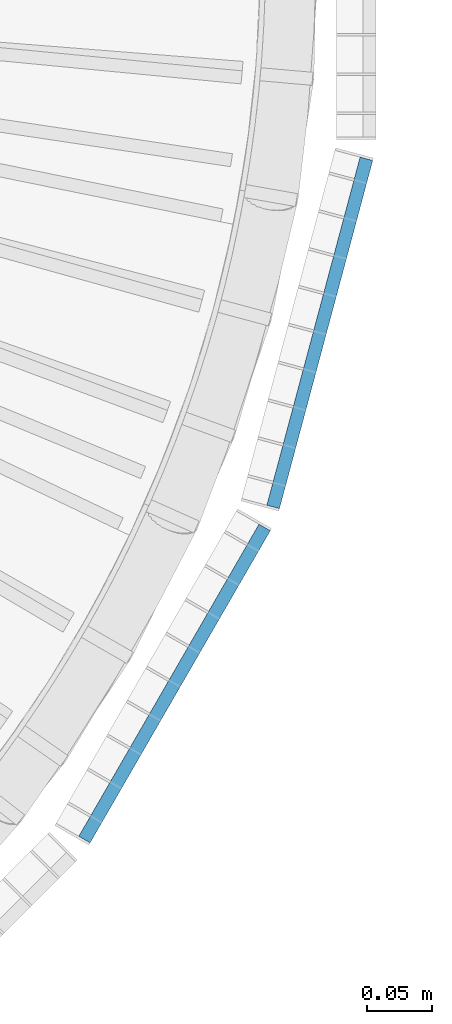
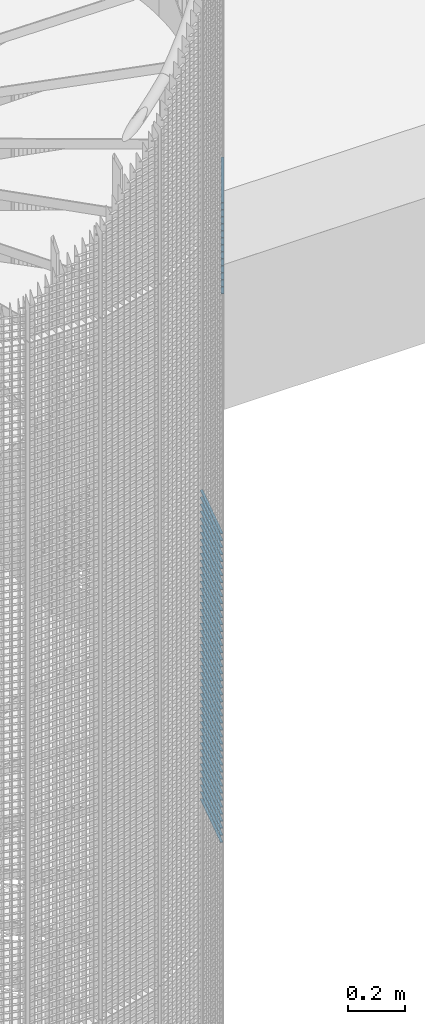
# One storey, part 251 of 1183: 59 beams, 2 elements without a shape of their own.
"""IFC2X3 building model written with IfcOpenShell, lengths in millimetres."""

from ifc_helpers import new_model, si_unit, frame, origin_with_axes, origin_2d_with_axis, place, context, subcontext, project, spatial, rectangle, extrude, material, type_object, element, aggregate, save


model = new_model("IFC2X3")

# Units and contexts
model_context = context("Model", 3, precision=1e-05, world=origin_with_axes())
body_context = subcontext(model_context, "Body", "Model", "MODEL_VIEW")
ifc_project = project(units=[si_unit("LENGTHUNIT", "METRE", prefix="MILLI"), si_unit("AREAUNIT", "SQUARE_METRE"), si_unit("VOLUMEUNIT", "CUBIC_METRE"), si_unit("MASSUNIT", "GRAM", prefix="KILO"), si_unit("TIMEUNIT", "SECOND"), si_unit("PLANEANGLEUNIT", "RADIAN"), si_unit("SOLIDANGLEUNIT", "STERADIAN"), si_unit("THERMODYNAMICTEMPERATUREUNIT", "DEGREE_CELSIUS"), si_unit("LUMINOUSINTENSITYUNIT", "LUMEN")], contexts=[model_context])

# Site, building, storey
site_placement = place(None, origin_with_axes())
site = spatial("IfcSite", under=ifc_project, at=site_placement, Name="Undefined", CompositionType="ELEMENT")
building_placement = place(site_placement, origin_with_axes())
building = spatial("IfcBuilding", under=site, at=building_placement, Name="Undefined", CompositionType="ELEMENT")
storey_placement = place(building_placement, origin_with_axes())
storey = spatial("IfcBuildingStorey", under=building, at=storey_placement, Name="Undefined", CompositionType="ELEMENT", Elevation=0.0)

# Assembly, beams
assembly_1_placement = place(storey_placement, origin_with_axes())
assembly_1 = element("IfcElementAssembly", 1, at=assembly_1_placement, inside=storey, Name="BORDURE", AssemblyPlace="NOTDEFINED", PredefinedType="NOTDEFINED")
ifc_material = material(Name="STEEL/S235JR")
beam_type = type_object("IfcBeamType", Name="PL2*10", PredefinedType="NOTDEFINED")
beam_1_placement = place(assembly_1_placement, frame((1039.82309522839, -421.483733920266, 7350.0), z_axis=(0.965925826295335, -0.258819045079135, 0.0), x_axis=(0.258819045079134, 0.965925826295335, 0.0)))
beam_1 = element("IfcBeam", 2, at=beam_1_placement, type_object=beam_type, material=ifc_material, Name="ENTRETOISE", context=body_context, shape_type="SweptSolid", body=[
    extrude(rectangle(XDim=2.0, YDim=10.0, at=origin_2d_with_axis()), frame((275.999999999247, 9.09494701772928e-13, 1.53210777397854e-14), z_axis=(-1.0, 0.0, 0.0), x_axis=(0.0, -1.0, 0.0)), (0.0, 0.0, 1.0), 276.0),
])
beam_2_placement = place(assembly_1_placement, frame((1039.82309522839, -421.483733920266, 7320.0), z_axis=(0.965925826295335, -0.258819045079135, 0.0), x_axis=(0.258819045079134, 0.965925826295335, 0.0)))
beam_2 = element("IfcBeam", 3, at=beam_2_placement, type_object=beam_type, material=ifc_material, Name="ENTRETOISE", context=body_context, shape_type="SweptSolid", body=[
    extrude(rectangle(XDim=2.0, YDim=10.0, at=origin_2d_with_axis()), frame((275.999999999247, 9.09494701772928e-13, 1.53210777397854e-14), z_axis=(-1.0, 0.0, 0.0), x_axis=(0.0, -1.0, 0.0)), (0.0, 0.0, 1.0), 276.0),
])
beam_3_placement = place(assembly_1_placement, frame((1039.82309522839, -421.483733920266, 7290.0), z_axis=(0.965925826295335, -0.258819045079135, 0.0), x_axis=(0.258819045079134, 0.965925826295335, 0.0)))
beam_3 = element("IfcBeam", 4, at=beam_3_placement, type_object=beam_type, material=ifc_material, Name="ENTRETOISE", context=body_context, shape_type="SweptSolid", body=[
    extrude(rectangle(XDim=2.0, YDim=10.0, at=origin_2d_with_axis()), frame((275.999999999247, 9.09494701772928e-13, 1.53210777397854e-14), z_axis=(-1.0, 0.0, 0.0), x_axis=(0.0, -1.0, 0.0)), (0.0, 0.0, 1.0), 276.0),
])
beam_4_placement = place(assembly_1_placement, frame((1039.82309522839, -421.483733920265, 7260.0), z_axis=(0.965925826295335, -0.258819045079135, 0.0), x_axis=(0.258819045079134, 0.965925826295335, 0.0)))
beam_4 = element("IfcBeam", 5, at=beam_4_placement, type_object=beam_type, material=ifc_material, Name="ENTRETOISE", context=body_context, shape_type="SweptSolid", body=[
    extrude(rectangle(XDim=2.0, YDim=10.0, at=origin_2d_with_axis()), frame((275.999999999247, 9.09494701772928e-13, 1.53210777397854e-14), z_axis=(-1.0, 0.0, 0.0), x_axis=(0.0, -1.0, 0.0)), (0.0, 0.0, 1.0), 276.0),
])
beam_5_placement = place(assembly_1_placement, frame((1039.82309522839, -421.483733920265, 7230.0), z_axis=(0.965925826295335, -0.258819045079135, 0.0), x_axis=(0.258819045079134, 0.965925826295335, 0.0)))
beam_5 = element("IfcBeam", 6, at=beam_5_placement, type_object=beam_type, material=ifc_material, Name="ENTRETOISE", context=body_context, shape_type="SweptSolid", body=[
    extrude(rectangle(XDim=2.0, YDim=10.0, at=origin_2d_with_axis()), frame((275.999999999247, 9.09494701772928e-13, 1.53210777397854e-14), z_axis=(-1.0, 0.0, 0.0), x_axis=(0.0, -1.0, 0.0)), (0.0, 0.0, 1.0), 276.0),
])
beam_6_placement = place(assembly_1_placement, frame((1039.82309522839, -421.483733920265, 7200.0), z_axis=(0.965925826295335, -0.258819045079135, 0.0), x_axis=(0.258819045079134, 0.965925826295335, 0.0)))
beam_6 = element("IfcBeam", 7, at=beam_6_placement, type_object=beam_type, material=ifc_material, Name="ENTRETOISE", context=body_context, shape_type="SweptSolid", body=[
    extrude(rectangle(XDim=2.0, YDim=10.0, at=origin_2d_with_axis()), frame((275.999999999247, 9.09494701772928e-13, 1.53210777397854e-14), z_axis=(-1.0, 0.0, 0.0), x_axis=(0.0, -1.0, 0.0)), (0.0, 0.0, 1.0), 276.0),
])
beam_7_placement = place(assembly_1_placement, frame((1039.82309522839, -421.483733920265, 7170.0), z_axis=(0.965925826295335, -0.258819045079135, 0.0), x_axis=(0.258819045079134, 0.965925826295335, 0.0)))
beam_7 = element("IfcBeam", 8, at=beam_7_placement, type_object=beam_type, material=ifc_material, Name="ENTRETOISE", context=body_context, shape_type="SweptSolid", body=[
    extrude(rectangle(XDim=2.0, YDim=10.0, at=origin_2d_with_axis()), frame((275.999999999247, 9.09494701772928e-13, 1.53210777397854e-14), z_axis=(-1.0, 0.0, 0.0), x_axis=(0.0, -1.0, 0.0)), (0.0, 0.0, 1.0), 276.0),
])
beam_8_placement = place(assembly_1_placement, frame((1039.82309522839, -421.483733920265, 7140.0), z_axis=(0.965925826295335, -0.258819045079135, 0.0), x_axis=(0.258819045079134, 0.965925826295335, 0.0)))
beam_8 = element("IfcBeam", 9, at=beam_8_placement, type_object=beam_type, material=ifc_material, Name="ENTRETOISE", context=body_context, shape_type="SweptSolid", body=[
    extrude(rectangle(XDim=2.0, YDim=10.0, at=origin_2d_with_axis()), frame((275.999999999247, 9.09494701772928e-13, 1.53210777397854e-14), z_axis=(-1.0, 0.0, 0.0), x_axis=(0.0, -1.0, 0.0)), (0.0, 0.0, 1.0), 276.0),
])
beam_9_placement = place(assembly_1_placement, frame((1039.82309522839, -421.483733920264, 6720.0), z_axis=(0.965925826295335, -0.258819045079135, 0.0), x_axis=(0.258819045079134, 0.965925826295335, 0.0)))
beam_9 = element("IfcBeam", 10, at=beam_9_placement, type_object=beam_type, material=ifc_material, Name="ENTRETOISE", context=body_context, shape_type="SweptSolid", body=[
    extrude(rectangle(XDim=2.0, YDim=10.0, at=origin_2d_with_axis()), frame((275.999999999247, 9.09494701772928e-13, 1.53210777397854e-14), z_axis=(-1.0, 0.0, 0.0), x_axis=(0.0, -1.0, 0.0)), (0.0, 0.0, 1.0), 276.0),
])
beam_10_placement = place(assembly_1_placement, frame((1039.82309522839, -421.483733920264, 6690.0), z_axis=(0.965925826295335, -0.258819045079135, 0.0), x_axis=(0.258819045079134, 0.965925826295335, 0.0)))
beam_10 = element("IfcBeam", 11, at=beam_10_placement, type_object=beam_type, material=ifc_material, Name="ENTRETOISE", context=body_context, shape_type="SweptSolid", body=[
    extrude(rectangle(XDim=2.0, YDim=10.0, at=origin_2d_with_axis()), frame((275.999999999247, 9.09494701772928e-13, 1.53210777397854e-14), z_axis=(-1.0, 0.0, 0.0), x_axis=(0.0, -1.0, 0.0)), (0.0, 0.0, 1.0), 276.0),
])
beam_11_placement = place(assembly_1_placement, frame((1039.82309522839, -421.483733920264, 6750.0), z_axis=(0.965925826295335, -0.258819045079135, 0.0), x_axis=(0.258819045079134, 0.965925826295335, 0.0)))
beam_11 = element("IfcBeam", 12, at=beam_11_placement, type_object=beam_type, material=ifc_material, Name="ENTRETOISE", context=body_context, shape_type="SweptSolid", body=[
    extrude(rectangle(XDim=2.0, YDim=10.0, at=origin_2d_with_axis()), frame((275.999999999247, 9.09494701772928e-13, 1.53210777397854e-14), z_axis=(-1.0, 0.0, 0.0), x_axis=(0.0, -1.0, 0.0)), (0.0, 0.0, 1.0), 276.0),
])
beam_12_placement = place(assembly_1_placement, frame((1039.82309522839, -421.483733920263, 6660.0), z_axis=(0.965925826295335, -0.258819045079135, 0.0), x_axis=(0.258819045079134, 0.965925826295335, 0.0)))
beam_12 = element("IfcBeam", 13, at=beam_12_placement, type_object=beam_type, material=ifc_material, Name="ENTRETOISE", context=body_context, shape_type="SweptSolid", body=[
    extrude(rectangle(XDim=2.0, YDim=10.0, at=origin_2d_with_axis()), frame((275.999999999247, 9.09494701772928e-13, 1.53210777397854e-14), z_axis=(-1.0, 0.0, 0.0), x_axis=(0.0, -1.0, 0.0)), (0.0, 0.0, 1.0), 276.0),
])
beam_13_placement = place(assembly_1_placement, frame((1039.82309522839, -421.483733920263, 6630.0), z_axis=(0.965925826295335, -0.258819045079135, 0.0), x_axis=(0.258819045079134, 0.965925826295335, 0.0)))
beam_13 = element("IfcBeam", 14, at=beam_13_placement, type_object=beam_type, material=ifc_material, Name="ENTRETOISE", context=body_context, shape_type="SweptSolid", body=[
    extrude(rectangle(XDim=2.0, YDim=10.0, at=origin_2d_with_axis()), frame((275.999999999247, 9.09494701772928e-13, 1.53210777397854e-14), z_axis=(-1.0, 0.0, 0.0), x_axis=(0.0, -1.0, 0.0)), (0.0, 0.0, 1.0), 276.0),
])
beam_14_placement = place(assembly_1_placement, frame((1039.82309522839, -421.483733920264, 6780.0), z_axis=(0.965925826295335, -0.258819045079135, 0.0), x_axis=(0.258819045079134, 0.965925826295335, 0.0)))
beam_14 = element("IfcBeam", 15, at=beam_14_placement, type_object=beam_type, material=ifc_material, Name="ENTRETOISE", context=body_context, shape_type="SweptSolid", body=[
    extrude(rectangle(XDim=2.0, YDim=10.0, at=origin_2d_with_axis()), frame((275.999999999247, 9.09494701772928e-13, 1.53210777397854e-14), z_axis=(-1.0, 0.0, 0.0), x_axis=(0.0, -1.0, 0.0)), (0.0, 0.0, 1.0), 276.0),
])
beam_15_placement = place(assembly_1_placement, frame((1039.82309522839, -421.483733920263, 6600.0), z_axis=(0.965925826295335, -0.258819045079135, 0.0), x_axis=(0.258819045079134, 0.965925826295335, 0.0)))
beam_15 = element("IfcBeam", 16, at=beam_15_placement, type_object=beam_type, material=ifc_material, Name="ENTRETOISE", context=body_context, shape_type="SweptSolid", body=[
    extrude(rectangle(XDim=2.0, YDim=10.0, at=origin_2d_with_axis()), frame((275.999999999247, 9.09494701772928e-13, 1.53210777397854e-14), z_axis=(-1.0, 0.0, 0.0), x_axis=(0.0, -1.0, 0.0)), (0.0, 0.0, 1.0), 276.0),
])
beam_16_placement = place(assembly_1_placement, frame((1039.82309522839, -421.483733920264, 6810.0), z_axis=(0.965925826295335, -0.258819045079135, 0.0), x_axis=(0.258819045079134, 0.965925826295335, 0.0)))
beam_16 = element("IfcBeam", 17, at=beam_16_placement, type_object=beam_type, material=ifc_material, Name="ENTRETOISE", context=body_context, shape_type="SweptSolid", body=[
    extrude(rectangle(XDim=2.0, YDim=10.0, at=origin_2d_with_axis()), frame((275.999999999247, 9.09494701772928e-13, 1.53210777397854e-14), z_axis=(-1.0, 0.0, 0.0), x_axis=(0.0, -1.0, 0.0)), (0.0, 0.0, 1.0), 276.0),
])
beam_17_placement = place(assembly_1_placement, frame((1039.82309522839, -421.483733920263, 6570.0), z_axis=(0.965925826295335, -0.258819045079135, 0.0), x_axis=(0.258819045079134, 0.965925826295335, 0.0)))
beam_17 = element("IfcBeam", 18, at=beam_17_placement, type_object=beam_type, material=ifc_material, Name="ENTRETOISE", context=body_context, shape_type="SweptSolid", body=[
    extrude(rectangle(XDim=2.0, YDim=10.0, at=origin_2d_with_axis()), frame((275.999999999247, 9.09494701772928e-13, 1.53210777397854e-14), z_axis=(-1.0, 0.0, 0.0), x_axis=(0.0, -1.0, 0.0)), (0.0, 0.0, 1.0), 276.0),
])
beam_18_placement = place(assembly_1_placement, frame((1039.82309522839, -421.483733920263, 6540.0), z_axis=(0.965925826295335, -0.258819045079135, 0.0), x_axis=(0.258819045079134, 0.965925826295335, 0.0)))
beam_18 = element("IfcBeam", 19, at=beam_18_placement, type_object=beam_type, material=ifc_material, Name="ENTRETOISE", context=body_context, shape_type="SweptSolid", body=[
    extrude(rectangle(XDim=2.0, YDim=10.0, at=origin_2d_with_axis()), frame((275.999999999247, 9.09494701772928e-13, 1.53210777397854e-14), z_axis=(-1.0, 0.0, 0.0), x_axis=(0.0, -1.0, 0.0)), (0.0, 0.0, 1.0), 276.0),
])
beam_19_placement = place(assembly_1_placement, frame((1039.82309522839, -421.483733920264, 6840.0), z_axis=(0.965925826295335, -0.258819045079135, 0.0), x_axis=(0.258819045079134, 0.965925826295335, 0.0)))
beam_19 = element("IfcBeam", 20, at=beam_19_placement, type_object=beam_type, material=ifc_material, Name="ENTRETOISE", context=body_context, shape_type="SweptSolid", body=[
    extrude(rectangle(XDim=2.0, YDim=10.0, at=origin_2d_with_axis()), frame((275.999999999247, 9.09494701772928e-13, 1.53210777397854e-14), z_axis=(-1.0, 0.0, 0.0), x_axis=(0.0, -1.0, 0.0)), (0.0, 0.0, 1.0), 276.0),
])
beam_20_placement = place(assembly_1_placement, frame((1039.82309522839, -421.483733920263, 6510.0), z_axis=(0.965925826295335, -0.258819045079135, 0.0), x_axis=(0.258819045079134, 0.965925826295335, 0.0)))
beam_20 = element("IfcBeam", 21, at=beam_20_placement, type_object=beam_type, material=ifc_material, Name="ENTRETOISE", context=body_context, shape_type="SweptSolid", body=[
    extrude(rectangle(XDim=2.0, YDim=10.0, at=origin_2d_with_axis()), frame((275.999999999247, 9.09494701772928e-13, 1.53210777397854e-14), z_axis=(-1.0, 0.0, 0.0), x_axis=(0.0, -1.0, 0.0)), (0.0, 0.0, 1.0), 276.0),
])
beam_21_placement = place(assembly_1_placement, frame((1039.82309522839, -421.483733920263, 6480.0), z_axis=(0.965925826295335, -0.258819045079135, 0.0), x_axis=(0.258819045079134, 0.965925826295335, 0.0)))
beam_21 = element("IfcBeam", 22, at=beam_21_placement, type_object=beam_type, material=ifc_material, Name="ENTRETOISE", context=body_context, shape_type="SweptSolid", body=[
    extrude(rectangle(XDim=2.0, YDim=10.0, at=origin_2d_with_axis()), frame((275.999999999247, 9.09494701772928e-13, 1.53210777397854e-14), z_axis=(-1.0, 0.0, 0.0), x_axis=(0.0, -1.0, 0.0)), (0.0, 0.0, 1.0), 276.0),
])
beam_22_placement = place(assembly_1_placement, frame((1039.82309522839, -421.483733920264, 6870.0), z_axis=(0.965925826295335, -0.258819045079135, 0.0), x_axis=(0.258819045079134, 0.965925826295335, 0.0)))
beam_22 = element("IfcBeam", 23, at=beam_22_placement, type_object=beam_type, material=ifc_material, Name="ENTRETOISE", context=body_context, shape_type="SweptSolid", body=[
    extrude(rectangle(XDim=2.0, YDim=10.0, at=origin_2d_with_axis()), frame((275.999999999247, 9.09494701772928e-13, 1.53210777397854e-14), z_axis=(-1.0, 0.0, 0.0), x_axis=(0.0, -1.0, 0.0)), (0.0, 0.0, 1.0), 276.0),
])
beam_23_placement = place(assembly_1_placement, frame((1039.82309522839, -421.483733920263, 6450.0), z_axis=(0.965925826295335, -0.258819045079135, 0.0), x_axis=(0.258819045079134, 0.965925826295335, 0.0)))
beam_23 = element("IfcBeam", 24, at=beam_23_placement, type_object=beam_type, material=ifc_material, Name="ENTRETOISE", context=body_context, shape_type="SweptSolid", body=[
    extrude(rectangle(XDim=2.0, YDim=10.0, at=origin_2d_with_axis()), frame((275.999999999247, 9.09494701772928e-13, 1.53210777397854e-14), z_axis=(-1.0, 0.0, 0.0), x_axis=(0.0, -1.0, 0.0)), (0.0, 0.0, 1.0), 276.0),
])
beam_24_placement = place(assembly_1_placement, frame((1039.82309522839, -421.483733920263, 6420.0), z_axis=(0.965925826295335, -0.258819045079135, 0.0), x_axis=(0.258819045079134, 0.965925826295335, 0.0)))
beam_24 = element("IfcBeam", 25, at=beam_24_placement, type_object=beam_type, material=ifc_material, Name="ENTRETOISE", context=body_context, shape_type="SweptSolid", body=[
    extrude(rectangle(XDim=2.0, YDim=10.0, at=origin_2d_with_axis()), frame((275.999999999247, 9.09494701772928e-13, 1.53210777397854e-14), z_axis=(-1.0, 0.0, 0.0), x_axis=(0.0, -1.0, 0.0)), (0.0, 0.0, 1.0), 276.0),
])
beam_25_placement = place(assembly_1_placement, frame((1039.82309522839, -421.483733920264, 6900.0), z_axis=(0.965925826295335, -0.258819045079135, 0.0), x_axis=(0.258819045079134, 0.965925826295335, 0.0)))
beam_25 = element("IfcBeam", 26, at=beam_25_placement, type_object=beam_type, material=ifc_material, Name="ENTRETOISE", context=body_context, shape_type="SweptSolid", body=[
    extrude(rectangle(XDim=2.0, YDim=10.0, at=origin_2d_with_axis()), frame((275.999999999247, 9.09494701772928e-13, 1.53210777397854e-14), z_axis=(-1.0, 0.0, 0.0), x_axis=(0.0, -1.0, 0.0)), (0.0, 0.0, 1.0), 276.0),
])
beam_26_placement = place(assembly_1_placement, frame((1039.82309522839, -421.483733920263, 6390.0), z_axis=(0.965925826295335, -0.258819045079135, 0.0), x_axis=(0.258819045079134, 0.965925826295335, 0.0)))
beam_26 = element("IfcBeam", 27, at=beam_26_placement, type_object=beam_type, material=ifc_material, Name="ENTRETOISE", context=body_context, shape_type="SweptSolid", body=[
    extrude(rectangle(XDim=2.0, YDim=10.0, at=origin_2d_with_axis()), frame((275.999999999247, 9.09494701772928e-13, 1.53210777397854e-14), z_axis=(-1.0, 0.0, 0.0), x_axis=(0.0, -1.0, 0.0)), (0.0, 0.0, 1.0), 276.0),
])
beam_27_placement = place(assembly_1_placement, frame((1039.82309522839, -421.483733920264, 6930.0), z_axis=(0.965925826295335, -0.258819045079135, 0.0), x_axis=(0.258819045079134, 0.965925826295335, 0.0)))
beam_27 = element("IfcBeam", 28, at=beam_27_placement, type_object=beam_type, material=ifc_material, Name="ENTRETOISE", context=body_context, shape_type="SweptSolid", body=[
    extrude(rectangle(XDim=2.0, YDim=10.0, at=origin_2d_with_axis()), frame((275.999999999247, 9.09494701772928e-13, 1.53210777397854e-14), z_axis=(-1.0, 0.0, 0.0), x_axis=(0.0, -1.0, 0.0)), (0.0, 0.0, 1.0), 276.0),
])
beam_28_placement = place(assembly_1_placement, frame((1039.82309522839, -421.483733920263, 6360.0), z_axis=(0.965925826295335, -0.258819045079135, 0.0), x_axis=(0.258819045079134, 0.965925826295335, 0.0)))
beam_28 = element("IfcBeam", 29, at=beam_28_placement, type_object=beam_type, material=ifc_material, Name="ENTRETOISE", context=body_context, shape_type="SweptSolid", body=[
    extrude(rectangle(XDim=2.0, YDim=10.0, at=origin_2d_with_axis()), frame((275.999999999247, 9.09494701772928e-13, 1.53210777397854e-14), z_axis=(-1.0, 0.0, 0.0), x_axis=(0.0, -1.0, 0.0)), (0.0, 0.0, 1.0), 276.0),
])
beam_29_placement = place(assembly_1_placement, frame((1039.82309522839, -421.483733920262, 6330.0), z_axis=(0.965925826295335, -0.258819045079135, 0.0), x_axis=(0.258819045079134, 0.965925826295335, 0.0)))
beam_29 = element("IfcBeam", 30, at=beam_29_placement, type_object=beam_type, material=ifc_material, Name="ENTRETOISE", context=body_context, shape_type="SweptSolid", body=[
    extrude(rectangle(XDim=2.0, YDim=10.0, at=origin_2d_with_axis()), frame((275.999999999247, 9.09494701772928e-13, 1.53210777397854e-14), z_axis=(-1.0, 0.0, 0.0), x_axis=(0.0, -1.0, 0.0)), (0.0, 0.0, 1.0), 276.0),
])
beam_30_placement = place(assembly_1_placement, frame((1039.82309522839, -421.483733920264, 6960.0), z_axis=(0.965925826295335, -0.258819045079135, 0.0), x_axis=(0.258819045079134, 0.965925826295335, 0.0)))
beam_30 = element("IfcBeam", 31, at=beam_30_placement, type_object=beam_type, material=ifc_material, Name="ENTRETOISE", context=body_context, shape_type="SweptSolid", body=[
    extrude(rectangle(XDim=2.0, YDim=10.0, at=origin_2d_with_axis()), frame((275.999999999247, 9.09494701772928e-13, 1.53210777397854e-14), z_axis=(-1.0, 0.0, 0.0), x_axis=(0.0, -1.0, 0.0)), (0.0, 0.0, 1.0), 276.0),
])
beam_31_placement = place(assembly_1_placement, frame((1039.82309522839, -421.483733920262, 6300.0), z_axis=(0.965925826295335, -0.258819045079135, 0.0), x_axis=(0.258819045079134, 0.965925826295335, 0.0)))
beam_31 = element("IfcBeam", 32, at=beam_31_placement, type_object=beam_type, material=ifc_material, Name="ENTRETOISE", context=body_context, shape_type="SweptSolid", body=[
    extrude(rectangle(XDim=2.0, YDim=10.0, at=origin_2d_with_axis()), frame((275.999999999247, 9.09494701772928e-13, 1.53210777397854e-14), z_axis=(-1.0, 0.0, 0.0), x_axis=(0.0, -1.0, 0.0)), (0.0, 0.0, 1.0), 276.0),
])
beam_32_placement = place(assembly_1_placement, frame((1039.82309522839, -421.483733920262, 6270.0), z_axis=(0.965925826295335, -0.258819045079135, 0.0), x_axis=(0.258819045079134, 0.965925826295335, 0.0)))
beam_32 = element("IfcBeam", 33, at=beam_32_placement, type_object=beam_type, material=ifc_material, Name="ENTRETOISE", context=body_context, shape_type="SweptSolid", body=[
    extrude(rectangle(XDim=2.0, YDim=10.0, at=origin_2d_with_axis()), frame((275.999999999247, 9.09494701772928e-13, 1.53210777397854e-14), z_axis=(-1.0, 0.0, 0.0), x_axis=(0.0, -1.0, 0.0)), (0.0, 0.0, 1.0), 276.0),
])
beam_33_placement = place(assembly_1_placement, frame((1039.82309522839, -421.483733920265, 6990.0), z_axis=(0.965925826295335, -0.258819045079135, 0.0), x_axis=(0.258819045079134, 0.965925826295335, 0.0)))
beam_33 = element("IfcBeam", 34, at=beam_33_placement, type_object=beam_type, material=ifc_material, Name="ENTRETOISE", context=body_context, shape_type="SweptSolid", body=[
    extrude(rectangle(XDim=2.0, YDim=10.0, at=origin_2d_with_axis()), frame((275.999999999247, 9.09494701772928e-13, 1.53210777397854e-14), z_axis=(-1.0, 0.0, 0.0), x_axis=(0.0, -1.0, 0.0)), (0.0, 0.0, 1.0), 276.0),
])
beam_34_placement = place(assembly_1_placement, frame((1039.82309522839, -421.483733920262, 6240.0), z_axis=(0.965925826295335, -0.258819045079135, 0.0), x_axis=(0.258819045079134, 0.965925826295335, 0.0)))
beam_34 = element("IfcBeam", 35, at=beam_34_placement, type_object=beam_type, material=ifc_material, Name="ENTRETOISE", context=body_context, shape_type="SweptSolid", body=[
    extrude(rectangle(XDim=2.0, YDim=10.0, at=origin_2d_with_axis()), frame((275.999999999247, 9.09494701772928e-13, 1.53210777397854e-14), z_axis=(-1.0, 0.0, 0.0), x_axis=(0.0, -1.0, 0.0)), (0.0, 0.0, 1.0), 276.0),
])
beam_35_placement = place(assembly_1_placement, frame((1039.82309522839, -421.483733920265, 7020.0), z_axis=(0.965925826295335, -0.258819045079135, 0.0), x_axis=(0.258819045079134, 0.965925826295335, 0.0)))
beam_35 = element("IfcBeam", 36, at=beam_35_placement, type_object=beam_type, material=ifc_material, Name="ENTRETOISE", context=body_context, shape_type="SweptSolid", body=[
    extrude(rectangle(XDim=2.0, YDim=10.0, at=origin_2d_with_axis()), frame((275.999999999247, 9.09494701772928e-13, 1.53210777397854e-14), z_axis=(-1.0, 0.0, 0.0), x_axis=(0.0, -1.0, 0.0)), (0.0, 0.0, 1.0), 276.0),
])
beam_36_placement = place(assembly_1_placement, frame((1039.82309522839, -421.483733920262, 6210.0), z_axis=(0.965925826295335, -0.258819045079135, 0.0), x_axis=(0.258819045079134, 0.965925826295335, 0.0)))
beam_36 = element("IfcBeam", 37, at=beam_36_placement, type_object=beam_type, material=ifc_material, Name="ENTRETOISE", context=body_context, shape_type="SweptSolid", body=[
    extrude(rectangle(XDim=2.0, YDim=10.0, at=origin_2d_with_axis()), frame((275.999999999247, 9.09494701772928e-13, 1.53210777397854e-14), z_axis=(-1.0, 0.0, 0.0), x_axis=(0.0, -1.0, 0.0)), (0.0, 0.0, 1.0), 276.0),
])
beam_37_placement = place(assembly_1_placement, frame((1039.82309522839, -421.483733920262, 6180.0), z_axis=(0.965925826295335, -0.258819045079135, 0.0), x_axis=(0.258819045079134, 0.965925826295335, 0.0)))
beam_37 = element("IfcBeam", 38, at=beam_37_placement, type_object=beam_type, material=ifc_material, Name="ENTRETOISE", context=body_context, shape_type="SweptSolid", body=[
    extrude(rectangle(XDim=2.0, YDim=10.0, at=origin_2d_with_axis()), frame((275.999999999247, 9.09494701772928e-13, 1.53210777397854e-14), z_axis=(-1.0, 0.0, 0.0), x_axis=(0.0, -1.0, 0.0)), (0.0, 0.0, 1.0), 276.0),
])
beam_38_placement = place(assembly_1_placement, frame((1039.82309522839, -421.483733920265, 7050.0), z_axis=(0.965925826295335, -0.258819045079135, 0.0), x_axis=(0.258819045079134, 0.965925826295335, 0.0)))
beam_38 = element("IfcBeam", 39, at=beam_38_placement, type_object=beam_type, material=ifc_material, Name="ENTRETOISE", context=body_context, shape_type="SweptSolid", body=[
    extrude(rectangle(XDim=2.0, YDim=10.0, at=origin_2d_with_axis()), frame((275.999999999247, 9.09494701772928e-13, 1.53210777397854e-14), z_axis=(-1.0, 0.0, 0.0), x_axis=(0.0, -1.0, 0.0)), (0.0, 0.0, 1.0), 276.0),
])
beam_39_placement = place(assembly_1_placement, frame((1039.82309522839, -421.483733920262, 6150.0), z_axis=(0.965925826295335, -0.258819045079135, 0.0), x_axis=(0.258819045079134, 0.965925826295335, 0.0)))
beam_39 = element("IfcBeam", 40, at=beam_39_placement, type_object=beam_type, material=ifc_material, Name="ENTRETOISE", context=body_context, shape_type="SweptSolid", body=[
    extrude(rectangle(XDim=2.0, YDim=10.0, at=origin_2d_with_axis()), frame((275.999999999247, 9.09494701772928e-13, 1.53210777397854e-14), z_axis=(-1.0, 0.0, 0.0), x_axis=(0.0, -1.0, 0.0)), (0.0, 0.0, 1.0), 276.0),
])
beam_40_placement = place(assembly_1_placement, frame((1039.82309522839, -421.483733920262, 6120.0), z_axis=(0.965925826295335, -0.258819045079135, 0.0), x_axis=(0.258819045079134, 0.965925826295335, 0.0)))
beam_40 = element("IfcBeam", 41, at=beam_40_placement, type_object=beam_type, material=ifc_material, Name="ENTRETOISE", context=body_context, shape_type="SweptSolid", body=[
    extrude(rectangle(XDim=2.0, YDim=10.0, at=origin_2d_with_axis()), frame((275.999999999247, 9.09494701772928e-13, 1.53210777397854e-14), z_axis=(-1.0, 0.0, 0.0), x_axis=(0.0, -1.0, 0.0)), (0.0, 0.0, 1.0), 276.0),
])
beam_41_placement = place(assembly_1_placement, frame((1039.82309522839, -421.483733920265, 7080.0), z_axis=(0.965925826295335, -0.258819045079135, 0.0), x_axis=(0.258819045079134, 0.965925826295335, 0.0)))
beam_41 = element("IfcBeam", 42, at=beam_41_placement, type_object=beam_type, material=ifc_material, Name="ENTRETOISE", context=body_context, shape_type="SweptSolid", body=[
    extrude(rectangle(XDim=2.0, YDim=10.0, at=origin_2d_with_axis()), frame((275.999999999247, 9.09494701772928e-13, 1.53210777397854e-14), z_axis=(-1.0, 0.0, 0.0), x_axis=(0.0, -1.0, 0.0)), (0.0, 0.0, 1.0), 276.0),
])
beam_42_placement = place(assembly_1_placement, frame((1039.82309522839, -421.483733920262, 6090.0), z_axis=(0.965925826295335, -0.258819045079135, 0.0), x_axis=(0.258819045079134, 0.965925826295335, 0.0)))
beam_42 = element("IfcBeam", 43, at=beam_42_placement, type_object=beam_type, material=ifc_material, Name="ENTRETOISE", context=body_context, shape_type="SweptSolid", body=[
    extrude(rectangle(XDim=2.0, YDim=10.0, at=origin_2d_with_axis()), frame((275.999999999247, 9.09494701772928e-13, 1.53210777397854e-14), z_axis=(-1.0, 0.0, 0.0), x_axis=(0.0, -1.0, 0.0)), (0.0, 0.0, 1.0), 276.0),
])
beam_43_placement = place(assembly_1_placement, frame((1039.82309522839, -421.483733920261, 6060.0), z_axis=(0.965925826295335, -0.258819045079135, 0.0), x_axis=(0.258819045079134, 0.965925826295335, 0.0)))
beam_43 = element("IfcBeam", 44, at=beam_43_placement, type_object=beam_type, material=ifc_material, Name="ENTRETOISE", context=body_context, shape_type="SweptSolid", body=[
    extrude(rectangle(XDim=2.0, YDim=10.0, at=origin_2d_with_axis()), frame((275.999999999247, 9.09494701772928e-13, 1.53210777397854e-14), z_axis=(-1.0, 0.0, 0.0), x_axis=(0.0, -1.0, 0.0)), (0.0, 0.0, 1.0), 276.0),
])
beam_44_placement = place(assembly_1_placement, frame((1039.82309522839, -421.483733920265, 7110.0), z_axis=(0.965925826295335, -0.258819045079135, 0.0), x_axis=(0.258819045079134, 0.965925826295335, 0.0)))
beam_44 = element("IfcBeam", 45, at=beam_44_placement, type_object=beam_type, material=ifc_material, Name="ENTRETOISE", context=body_context, shape_type="SweptSolid", body=[
    extrude(rectangle(XDim=2.0, YDim=10.0, at=origin_2d_with_axis()), frame((275.999999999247, 9.09494701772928e-13, 1.53210777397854e-14), z_axis=(-1.0, 0.0, 0.0), x_axis=(0.0, -1.0, 0.0)), (0.0, 0.0, 1.0), 276.0),
])
beam_45_placement = place(assembly_1_placement, frame((1039.82309522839, -421.48373392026, 6030.0), z_axis=(0.965925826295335, -0.258819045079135, 0.0), x_axis=(0.258819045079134, 0.965925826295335, 0.0)))
beam_45 = element("IfcBeam", 46, at=beam_45_placement, type_object=beam_type, material=ifc_material, Name="ENTRETOISE", context=body_context, shape_type="SweptSolid", body=[
    extrude(rectangle(XDim=2.0, YDim=10.0, at=origin_2d_with_axis()), frame((275.999999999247, 9.09494701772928e-13, 1.53210777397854e-14), z_axis=(-1.0, 0.0, 0.0), x_axis=(0.0, -1.0, 0.0)), (0.0, 0.0, 1.0), 276.0),
])
aggregate(assembly_1, [beam_1, beam_2, beam_3, beam_4, beam_5, beam_6, beam_7, beam_8, beam_9, beam_10, beam_11, beam_12, beam_13, beam_14, beam_15, beam_16, beam_17, beam_18, beam_19, beam_20, beam_21, beam_22, beam_23, beam_24, beam_25, beam_26, beam_27, beam_28, beam_29, beam_30, beam_31, beam_32, beam_33, beam_34, beam_35, beam_36, beam_37, beam_38, beam_39, beam_40, beam_41, beam_42, beam_43, beam_44, beam_45])

assembly_2_placement = place(storey_placement, origin_with_axes())
assembly_2 = element("IfcElementAssembly", 47, at=assembly_2_placement, inside=storey, Name="BORDURE", AssemblyPlace="NOTDEFINED", PredefinedType="NOTDEFINED")
beam_46_placement = place(assembly_2_placement, frame((895.303964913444, -676.248044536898, 8970.0), z_axis=(0.866025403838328, -0.49999999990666, 0.0), x_axis=(0.49999999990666, 0.866025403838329, 0.0)))
beam_46 = element("IfcBeam", 48, at=beam_46_placement, type_object=beam_type, material=ifc_material, Name="ENTRETOISE", context=body_context, shape_type="SweptSolid", body=[
    extrude(rectangle(XDim=2.0, YDim=10.0, at=origin_2d_with_axis()), frame((275.999999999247, 9.09494701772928e-13, 1.53210777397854e-14), z_axis=(-1.0, 0.0, 0.0), x_axis=(0.0, -1.0, 0.0)), (0.0, 0.0, 1.0), 276.0),
])
beam_47_placement = place(assembly_2_placement, frame((895.303964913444, -676.248044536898, 8940.0), z_axis=(0.866025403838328, -0.49999999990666, 0.0), x_axis=(0.49999999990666, 0.866025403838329, 0.0)))
beam_47 = element("IfcBeam", 49, at=beam_47_placement, type_object=beam_type, material=ifc_material, Name="ENTRETOISE", context=body_context, shape_type="SweptSolid", body=[
    extrude(rectangle(XDim=2.0, YDim=10.0, at=origin_2d_with_axis()), frame((275.999999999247, 9.09494701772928e-13, 1.53210777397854e-14), z_axis=(-1.0, 0.0, 0.0), x_axis=(0.0, -1.0, 0.0)), (0.0, 0.0, 1.0), 276.0),
])
beam_48_placement = place(assembly_2_placement, frame((895.303964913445, -676.248044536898, 8910.0), z_axis=(0.866025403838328, -0.49999999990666, 0.0), x_axis=(0.49999999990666, 0.866025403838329, 0.0)))
beam_48 = element("IfcBeam", 50, at=beam_48_placement, type_object=beam_type, material=ifc_material, Name="ENTRETOISE", context=body_context, shape_type="SweptSolid", body=[
    extrude(rectangle(XDim=2.0, YDim=10.0, at=origin_2d_with_axis()), frame((275.999999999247, 9.09494701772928e-13, 1.53210777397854e-14), z_axis=(-1.0, 0.0, 0.0), x_axis=(0.0, -1.0, 0.0)), (0.0, 0.0, 1.0), 276.0),
])
beam_49_placement = place(assembly_2_placement, frame((895.303964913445, -676.248044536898, 8880.0), z_axis=(0.866025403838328, -0.49999999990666, 0.0), x_axis=(0.49999999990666, 0.866025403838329, 0.0)))
beam_49 = element("IfcBeam", 51, at=beam_49_placement, type_object=beam_type, material=ifc_material, Name="ENTRETOISE", context=body_context, shape_type="SweptSolid", body=[
    extrude(rectangle(XDim=2.0, YDim=10.0, at=origin_2d_with_axis()), frame((275.999999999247, 9.09494701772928e-13, 1.53210777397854e-14), z_axis=(-1.0, 0.0, 0.0), x_axis=(0.0, -1.0, 0.0)), (0.0, 0.0, 1.0), 276.0),
])
beam_50_placement = place(assembly_2_placement, frame((895.303964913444, -676.248044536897, 8850.0), z_axis=(0.866025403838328, -0.49999999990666, 0.0), x_axis=(0.49999999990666, 0.866025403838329, 0.0)))
beam_50 = element("IfcBeam", 52, at=beam_50_placement, type_object=beam_type, material=ifc_material, Name="ENTRETOISE", context=body_context, shape_type="SweptSolid", body=[
    extrude(rectangle(XDim=2.0, YDim=10.0, at=origin_2d_with_axis()), frame((275.999999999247, 9.09494701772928e-13, 1.53210777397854e-14), z_axis=(-1.0, 0.0, 0.0), x_axis=(0.0, -1.0, 0.0)), (0.0, 0.0, 1.0), 276.0),
])
beam_51_placement = place(assembly_2_placement, frame((895.303964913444, -676.248044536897, 8820.0), z_axis=(0.866025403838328, -0.49999999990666, 0.0), x_axis=(0.49999999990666, 0.866025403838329, 0.0)))
beam_51 = element("IfcBeam", 53, at=beam_51_placement, type_object=beam_type, material=ifc_material, Name="ENTRETOISE", context=body_context, shape_type="SweptSolid", body=[
    extrude(rectangle(XDim=2.0, YDim=10.0, at=origin_2d_with_axis()), frame((275.999999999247, 9.09494701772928e-13, 1.53210777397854e-14), z_axis=(-1.0, 0.0, 0.0), x_axis=(0.0, -1.0, 0.0)), (0.0, 0.0, 1.0), 276.0),
])
beam_52_placement = place(assembly_2_placement, frame((895.303964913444, -676.248044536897, 8790.0), z_axis=(0.866025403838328, -0.49999999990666, 0.0), x_axis=(0.49999999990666, 0.866025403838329, 0.0)))
beam_52 = element("IfcBeam", 54, at=beam_52_placement, type_object=beam_type, material=ifc_material, Name="ENTRETOISE", context=body_context, shape_type="SweptSolid", body=[
    extrude(rectangle(XDim=2.0, YDim=10.0, at=origin_2d_with_axis()), frame((275.999999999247, 9.09494701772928e-13, 1.53210777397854e-14), z_axis=(-1.0, 0.0, 0.0), x_axis=(0.0, -1.0, 0.0)), (0.0, 0.0, 1.0), 276.0),
])
beam_53_placement = place(assembly_2_placement, frame((895.303964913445, -676.248044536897, 8760.0), z_axis=(0.866025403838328, -0.49999999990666, 0.0), x_axis=(0.49999999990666, 0.866025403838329, 0.0)))
beam_53 = element("IfcBeam", 55, at=beam_53_placement, type_object=beam_type, material=ifc_material, Name="ENTRETOISE", context=body_context, shape_type="SweptSolid", body=[
    extrude(rectangle(XDim=2.0, YDim=10.0, at=origin_2d_with_axis()), frame((275.999999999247, 9.09494701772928e-13, 1.53210777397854e-14), z_axis=(-1.0, 0.0, 0.0), x_axis=(0.0, -1.0, 0.0)), (0.0, 0.0, 1.0), 276.0),
])
beam_54_placement = place(assembly_2_placement, frame((895.303964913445, -676.248044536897, 8730.0), z_axis=(0.866025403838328, -0.49999999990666, 0.0), x_axis=(0.49999999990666, 0.866025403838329, 0.0)))
beam_54 = element("IfcBeam", 56, at=beam_54_placement, type_object=beam_type, material=ifc_material, Name="ENTRETOISE", context=body_context, shape_type="SweptSolid", body=[
    extrude(rectangle(XDim=2.0, YDim=10.0, at=origin_2d_with_axis()), frame((275.999999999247, 9.09494701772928e-13, 1.53210777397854e-14), z_axis=(-1.0, 0.0, 0.0), x_axis=(0.0, -1.0, 0.0)), (0.0, 0.0, 1.0), 276.0),
])
beam_55_placement = place(assembly_2_placement, frame((895.303964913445, -676.248044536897, 8700.0), z_axis=(0.866025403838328, -0.49999999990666, 0.0), x_axis=(0.49999999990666, 0.866025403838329, 0.0)))
beam_55 = element("IfcBeam", 57, at=beam_55_placement, type_object=beam_type, material=ifc_material, Name="ENTRETOISE", context=body_context, shape_type="SweptSolid", body=[
    extrude(rectangle(XDim=2.0, YDim=10.0, at=origin_2d_with_axis()), frame((275.999999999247, 9.09494701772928e-13, 1.53210777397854e-14), z_axis=(-1.0, 0.0, 0.0), x_axis=(0.0, -1.0, 0.0)), (0.0, 0.0, 1.0), 276.0),
])
beam_56_placement = place(assembly_2_placement, frame((895.303964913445, -676.248044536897, 8670.0), z_axis=(0.866025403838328, -0.49999999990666, 0.0), x_axis=(0.49999999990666, 0.866025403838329, 0.0)))
beam_56 = element("IfcBeam", 58, at=beam_56_placement, type_object=beam_type, material=ifc_material, Name="ENTRETOISE", context=body_context, shape_type="SweptSolid", body=[
    extrude(rectangle(XDim=2.0, YDim=10.0, at=origin_2d_with_axis()), frame((275.999999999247, 9.09494701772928e-13, 1.53210777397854e-14), z_axis=(-1.0, 0.0, 0.0), x_axis=(0.0, -1.0, 0.0)), (0.0, 0.0, 1.0), 276.0),
])
beam_57_placement = place(assembly_2_placement, frame((895.303964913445, -676.248044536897, 8640.0), z_axis=(0.866025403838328, -0.49999999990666, 0.0), x_axis=(0.49999999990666, 0.866025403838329, 0.0)))
beam_57 = element("IfcBeam", 59, at=beam_57_placement, type_object=beam_type, material=ifc_material, Name="ENTRETOISE", context=body_context, shape_type="SweptSolid", body=[
    extrude(rectangle(XDim=2.0, YDim=10.0, at=origin_2d_with_axis()), frame((275.999999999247, 9.09494701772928e-13, 1.53210777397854e-14), z_axis=(-1.0, 0.0, 0.0), x_axis=(0.0, -1.0, 0.0)), (0.0, 0.0, 1.0), 276.0),
])
beam_58_placement = place(assembly_2_placement, frame((895.303964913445, -676.248044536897, 8610.0), z_axis=(0.866025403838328, -0.49999999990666, 0.0), x_axis=(0.49999999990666, 0.866025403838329, 0.0)))
beam_58 = element("IfcBeam", 60, at=beam_58_placement, type_object=beam_type, material=ifc_material, Name="ENTRETOISE", context=body_context, shape_type="SweptSolid", body=[
    extrude(rectangle(XDim=2.0, YDim=10.0, at=origin_2d_with_axis()), frame((275.999999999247, 9.09494701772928e-13, 1.53210777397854e-14), z_axis=(-1.0, 0.0, 0.0), x_axis=(0.0, -1.0, 0.0)), (0.0, 0.0, 1.0), 276.0),
])
beam_59_placement = place(assembly_2_placement, frame((895.303964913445, -676.248044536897, 8580.0), z_axis=(0.866025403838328, -0.49999999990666, 0.0), x_axis=(0.49999999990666, 0.866025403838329, 0.0)))
beam_59 = element("IfcBeam", 61, at=beam_59_placement, type_object=beam_type, material=ifc_material, Name="ENTRETOISE", context=body_context, shape_type="SweptSolid", body=[
    extrude(rectangle(XDim=2.0, YDim=10.0, at=origin_2d_with_axis()), frame((275.999999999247, 9.09494701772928e-13, 1.53210777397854e-14), z_axis=(-1.0, 0.0, 0.0), x_axis=(0.0, -1.0, 0.0)), (0.0, 0.0, 1.0), 276.0),
])
aggregate(assembly_2, [beam_46, beam_47, beam_48, beam_49, beam_50, beam_51, beam_52, beam_53, beam_54, beam_55, beam_56, beam_57, beam_58, beam_59])

save(model, "model.ifc")
